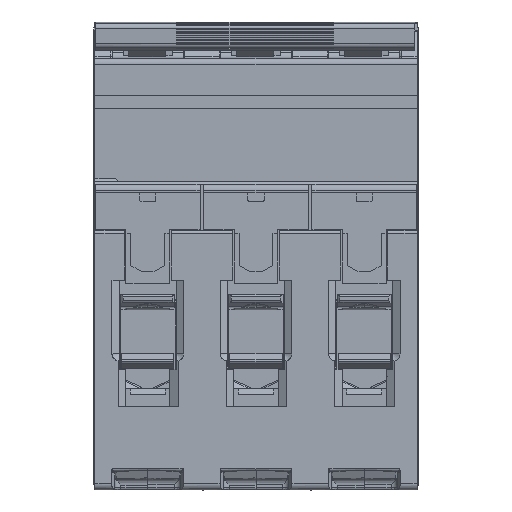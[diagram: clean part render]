
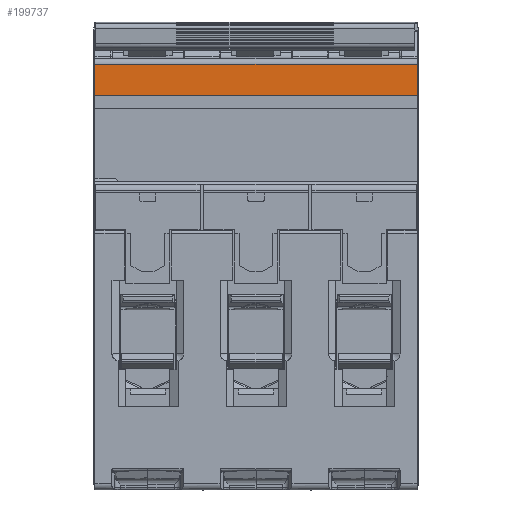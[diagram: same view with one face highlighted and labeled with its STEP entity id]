
A CAD part, front view. The second image highlights one B-rep face of the part: STEP entity #199737.
In plain terms, the highlighted planar face has unit normal (0, -1, 0).
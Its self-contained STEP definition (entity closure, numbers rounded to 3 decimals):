
#12943 = EDGE_LOOP ( 'NONE', ( #87785, #87787, #87788, #87790 ) ) ;
#42522 = VECTOR ( 'NONE', #81980, 1000. ) ;
#42539 = VECTOR ( 'NONE', #81969, 1000. ) ;
#42561 = VECTOR ( 'NONE', #81989, 1000. ) ;
#76347 = VECTOR ( 'NONE', #79673, 1000. ) ;
#79668 = LINE ( 'NONE', #79671, #76347 ) ;
#79671 = CARTESIAN_POINT ( 'NONE',  ( 35.567, -20.109, -31.351 ) ) ;
#79673 = DIRECTION ( 'NONE',  ( 0., 0., -1. ) ) ;
#81966 = LINE ( 'NONE', #81968, #42539 ) ;
#81968 = CARTESIAN_POINT ( 'NONE',  ( 0.567, -20.109, 31.649 ) ) ;
#81969 = DIRECTION ( 'NONE',  ( -1., 0., 0. ) ) ;
#81978 = LINE ( 'NONE', #81979, #42522 ) ;
#81979 = CARTESIAN_POINT ( 'NONE',  ( -16.833, -20.109, 12.549 ) ) ;
#81980 = DIRECTION ( 'NONE',  ( 0., 0., -1. ) ) ;
#81987 = LINE ( 'NONE', #81988, #42561 ) ;
#81988 = CARTESIAN_POINT ( 'NONE',  ( 0.567, -20.109, 26.649 ) ) ;
#81989 = DIRECTION ( 'NONE',  ( 1., 0., 0. ) ) ;
#87785 = ORIENTED_EDGE ( 'NONE', *, *, #103416, .T. ) ;
#87787 = ORIENTED_EDGE ( 'NONE', *, *, #202386, .F. ) ;
#87788 = ORIENTED_EDGE ( 'NONE', *, *, #103401, .T. ) ;
#87790 = ORIENTED_EDGE ( 'NONE', *, *, #103407, .T. ) ;
#95358 = VERTEX_POINT ( 'NONE', #123599 ) ;
#95366 = VERTEX_POINT ( 'NONE', #123615 ) ;
#95367 = VERTEX_POINT ( 'NONE', #123631 ) ;
#95383 = VERTEX_POINT ( 'NONE', #123648 ) ;
#103401 = EDGE_CURVE ( 'NONE', #95366, #95367, #81966, .T. ) ;
#103407 = EDGE_CURVE ( 'NONE', #95367, #95358, #81978, .T. ) ;
#103416 = EDGE_CURVE ( 'NONE', #95358, #95383, #81987, .T. ) ;
#123599 = CARTESIAN_POINT ( 'NONE',  ( -16.833, -20.109, 26.649 ) ) ;
#123615 = CARTESIAN_POINT ( 'NONE',  ( 35.567, -20.109, 31.649 ) ) ;
#123631 = CARTESIAN_POINT ( 'NONE',  ( -16.833, -20.109, 31.649 ) ) ;
#123648 = CARTESIAN_POINT ( 'NONE',  ( 35.567, -20.109, 26.649 ) ) ;
#199737 = ADVANCED_FACE ( 'NONE', ( #207125 ), #207127, .T. ) ;
#202386 = EDGE_CURVE ( 'NONE', #95366, #95383, #79668, .T. ) ;
#204842 = AXIS2_PLACEMENT_3D ( 'NONE', #207161, #207163, #207165 ) ;
#207125 = FACE_OUTER_BOUND ( 'NONE', #12943, .T. ) ;
#207127 = PLANE ( 'NONE',  #204842 ) ;
#207161 = CARTESIAN_POINT ( 'NONE',  ( 0.567, -20.109, 12.549 ) ) ;
#207163 = DIRECTION ( 'NONE',  ( 0., -1., 0. ) ) ;
#207165 = DIRECTION ( 'NONE',  ( 1., 0., 0. ) ) ;
